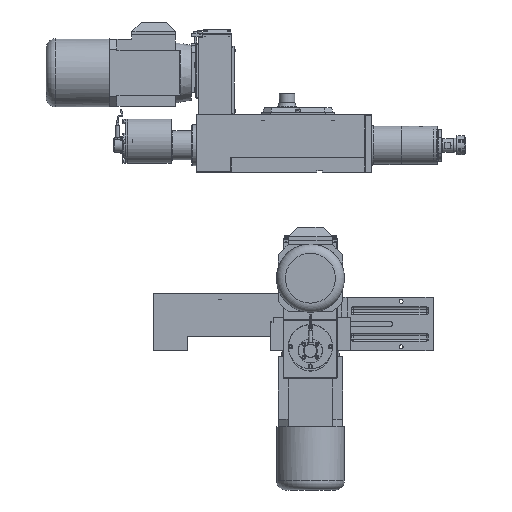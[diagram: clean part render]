
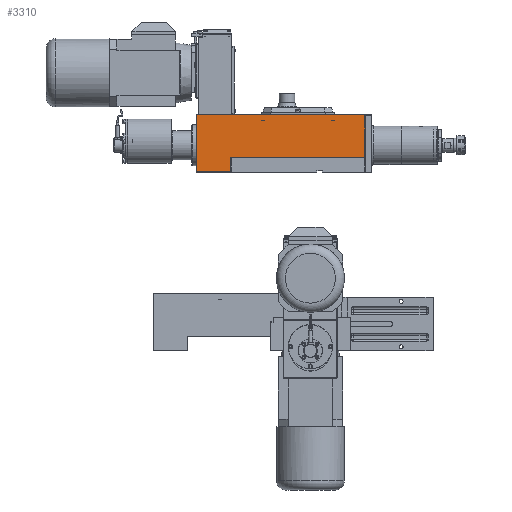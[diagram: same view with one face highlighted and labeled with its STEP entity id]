
A CAD part, front view. The second image highlights one B-rep face of the part: STEP entity #3310.
In plain terms, the highlighted planar face has unit normal (0, -1, 0).
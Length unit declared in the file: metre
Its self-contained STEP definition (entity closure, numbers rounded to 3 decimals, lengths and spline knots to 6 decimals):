
#3310 = ADVANCED_FACE( '', ( #5168 ), #5169, .T. );
#5168 = FACE_OUTER_BOUND( '', #8091, .T. );
#5169 = PLANE( '', #8092 );
#8091 = EDGE_LOOP( '', ( #14136, #14137, #14138, #14139, #14140, #14141 ) );
#8092 = AXIS2_PLACEMENT_3D( '', #14142, #14143, #14144 );
#14136 = ORIENTED_EDGE( '', *, *, #18800, .F. );
#14137 = ORIENTED_EDGE( '', *, *, #18804, .F. );
#14138 = ORIENTED_EDGE( '', *, *, #18805, .F. );
#14139 = ORIENTED_EDGE( '', *, *, #18806, .F. );
#14140 = ORIENTED_EDGE( '', *, *, #18779, .T. );
#14141 = ORIENTED_EDGE( '', *, *, #18801, .T. );
#14142 = CARTESIAN_POINT( '', ( 0.025, -0.019444, 0. ) );
#14143 = DIRECTION( '', ( 0., -1., 0. ) );
#14144 = DIRECTION( '', ( 0., 0., -1. ) );
#18779 = EDGE_CURVE( '', #21773, #21771, #21774, .T. );
#18800 = EDGE_CURVE( '', #21803, #21806, #21808, .T. );
#18801 = EDGE_CURVE( '', #21771, #21806, #21809, .T. );
#18804 = EDGE_CURVE( '', #21814, #21803, #21815, .T. );
#18805 = EDGE_CURVE( '', #21749, #21814, #21816, .T. );
#18806 = EDGE_CURVE( '', #21773, #21749, #21817, .T. );
#21749 = VERTEX_POINT( '', #26899 );
#21771 = VERTEX_POINT( '', #26930 );
#21773 = VERTEX_POINT( '', #26933 );
#21774 = LINE( '', #26934, #26935 );
#21803 = VERTEX_POINT( '', #26981 );
#21806 = VERTEX_POINT( '', #26986 );
#21808 = LINE( '', #26989, #26990 );
#21809 = LINE( '', #26991, #26992 );
#21814 = VERTEX_POINT( '', #26997 );
#21815 = LINE( '', #26998, #26999 );
#21816 = LINE( '', #27000, #27001 );
#21817 = LINE( '', #27002, #27003 );
#26899 = CARTESIAN_POINT( '', ( -0.3465, -0.019444, 0.0005 ) );
#26930 = CARTESIAN_POINT( '', ( -0.271, -0.019444, 0.032 ) );
#26933 = CARTESIAN_POINT( '', ( -0.271, -0.019444, 0.0005 ) );
#26934 = CARTESIAN_POINT( '', ( -0.271, -0.019444, 0. ) );
#26935 = VECTOR( '', #32498, 1. );
#26981 = CARTESIAN_POINT( '', ( 0.0245, -0.019444, 0.1265 ) );
#26986 = CARTESIAN_POINT( '', ( 0.0245, -0.019444, 0.032 ) );
#26989 = CARTESIAN_POINT( '', ( 0.0245, -0.019444, 0. ) );
#26990 = VECTOR( '', #32519, 1. );
#26991 = CARTESIAN_POINT( '', ( -0.049, -0.019444, 0.032 ) );
#26992 = VECTOR( '', #32520, 1. );
#26997 = CARTESIAN_POINT( '', ( -0.3465, -0.019444, 0.1265 ) );
#26998 = CARTESIAN_POINT( '', ( -0.068, -0.019444, 0.1265 ) );
#26999 = VECTOR( '', #32527, 1. );
#27000 = CARTESIAN_POINT( '', ( -0.3465, -0.019444, 0. ) );
#27001 = VECTOR( '', #32528, 1. );
#27002 = CARTESIAN_POINT( '', ( -0.068, -0.019444, 0.0005 ) );
#27003 = VECTOR( '', #32529, 1. );
#32498 = DIRECTION( '', ( 0., 0., 1. ) );
#32519 = DIRECTION( '', ( 0., 0., -1. ) );
#32520 = DIRECTION( '', ( 1., 0., 0. ) );
#32527 = DIRECTION( '', ( 1., 0., 0. ) );
#32528 = DIRECTION( '', ( 0., 0., 1. ) );
#32529 = DIRECTION( '', ( -1., 0., 0. ) );
